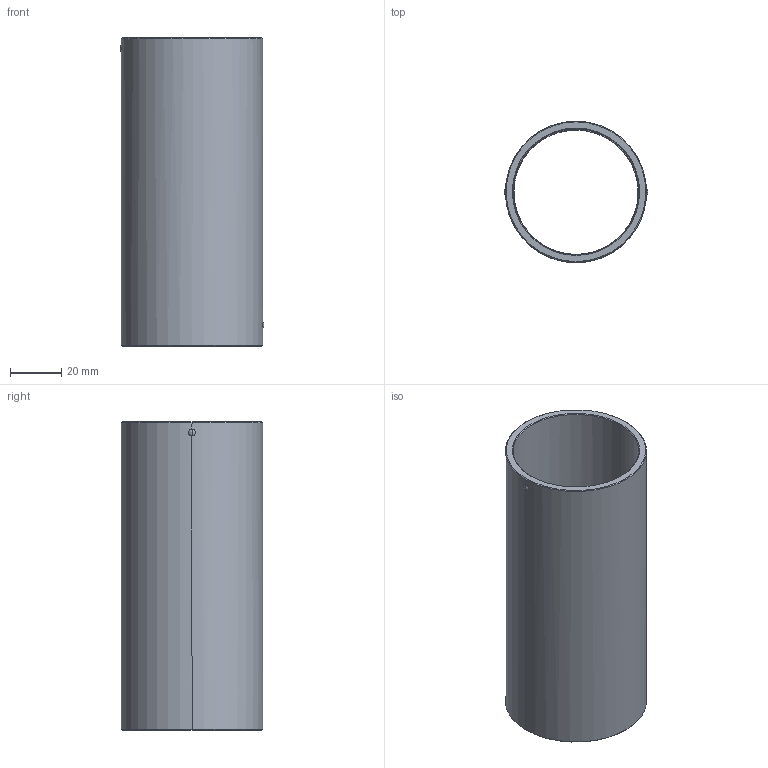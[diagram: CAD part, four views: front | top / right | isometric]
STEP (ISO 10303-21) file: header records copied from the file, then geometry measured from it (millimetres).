
FILE_DESCRIPTION(('CATIA V5 STEP Exchange'),'2;1');
FILE_NAME('C:\Users\Utente\Desktop\IO LAVORO\3D X SITO CF\X SITO\730\730-48x120.stp','2021-01-07T16:07:18+00:00',('none'),('none'),'CATIA Version 5 Release 20 GA (IN-10)','CATIA V5 STEP AP203','none');
FILE_SCHEMA(('CONFIG_CONTROL_DESIGN'));
Length unit declared in the file: millimetre
Products named in the file (1): 730-48x120
Bounding box: 55.99 x 55 x 120 mm (x, y, z)
Volume: 57758.1 mm3; surface area: 40763.2 mm2
Topology: 1 solids, 1 shells, 44 faces, 120 edges, 76 vertices
Faces by surface type: cylinder 18, cone 10, plane 8, sphere 8
Entity records: 1743 total; most frequent: CARTESIAN_POINT 680, ORIENTED_EDGE 240, DIRECTION 159, EDGE_CURVE 120, AXIS2_PLACEMENT_3D 78, VERTEX_POINT 76, B_SPLINE_CURVE_WITH_KNOTS 49, EDGE_LOOP 48
